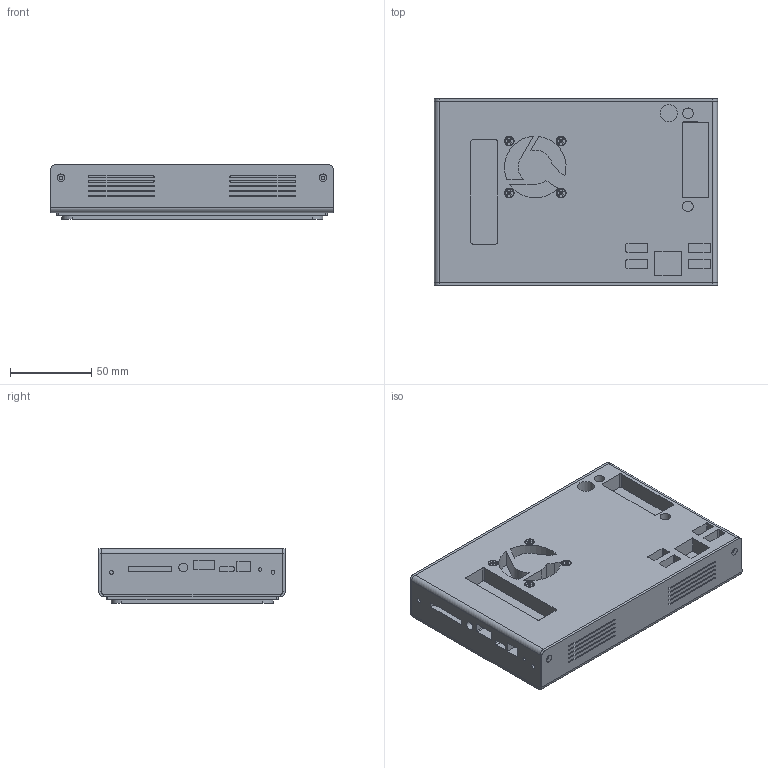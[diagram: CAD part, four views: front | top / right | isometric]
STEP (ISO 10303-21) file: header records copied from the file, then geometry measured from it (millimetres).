
FILE_DESCRIPTION(/* description */ (''),/* implementation_level */ '2;1');
FILE_NAME(/* name */ 'XCTouchNav 7 inch dummy V1.2.stp',/* time_stamp */ '2026-06-09T17:03:21+02:00',/* author */ ('frits_000'),/* organization */ (''),/* preprocessor_version */ 'ST-DEVELOPER v20.1',/* originating_system */ 'Autodesk Inventor 2026',/* authorisation */ '');
FILE_SCHEMA (('AUTOMOTIVE_DESIGN { 1 0 10303 214 3 1 1 }'));
Length unit declared in the file: millimetre
Products named in the file (5): XCTouchNav 7 inch dummy; FB05 dummy 1.5mm alu top; 7 inch dummy back; m3x6 phillip head countersunk; xctn7v1 lcdframe
Assembly tree (7 placements, depth 2):
  XCTouchNav 7 inch dummy
    FB05 dummy 1.5mm alu top
    7 inch dummy back
    m3x6 phillip head countersunk  x4
    xctn7v1 lcdframe
Bounding box: 174.4 x 114.8 x 33.5 mm (x, y, z)
Volume: 539415.7 mm3; surface area: 105780.3 mm2
Topology: 7 solids, 7 shells, 513 faces, 1368 edges, 898 vertices
Faces by surface type: plane 252, cylinder 196, cone 40, bspline 21, torus 4
Full cylindrical faces by diameter (mm): 2 x1, 2.013 x4, 2.1 x4, 2.374 x28, 2.4 x2, 2.459 x2, 2.874 x28, 5 x4, 5.4 x1, 6.5 x2, 10.4 x1
Entity records: 15578 total; most frequent: CARTESIAN_POINT 5913, DIRECTION 1924, ORIENTED_EDGE 1914, EDGE_CURVE 957, AXIS2_PLACEMENT_3D 664, VERTEX_POINT 628, LINE 596, VECTOR 596
